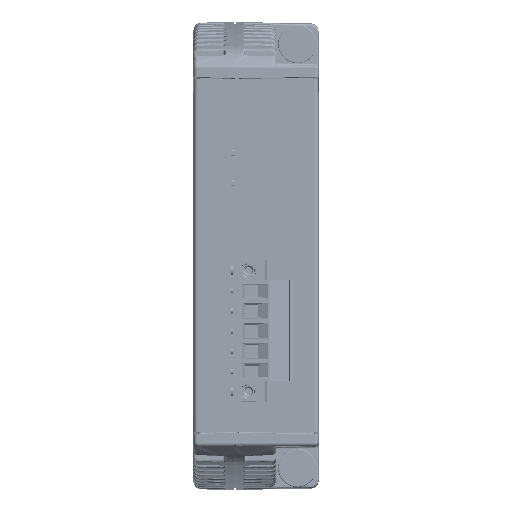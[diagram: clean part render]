
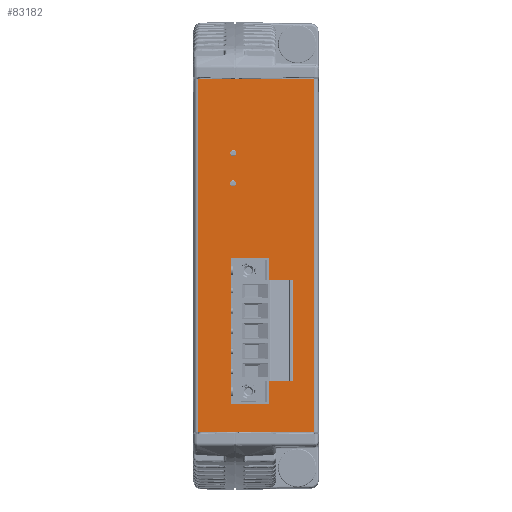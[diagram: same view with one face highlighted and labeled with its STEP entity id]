
A CAD part, top view. The second image highlights one B-rep face of the part: STEP entity #83182.
In plain terms, the highlighted planar face has unit normal (0, 0, 1).
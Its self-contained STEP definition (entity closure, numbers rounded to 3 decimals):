
#1920 = CARTESIAN_POINT ( 'NONE',  ( 10.39, -37.245, 28.4 ) ) ;
#1957 = CARTESIAN_POINT ( 'NONE',  ( 0.535, 18.196, 28.4 ) ) ;
#4042 = CARTESIAN_POINT ( 'NONE',  ( 1.285, 18.196, 28.4 ) ) ;
#5953 = LINE ( 'NONE', #183777, #78269 ) ;
#7946 = AXIS2_PLACEMENT_3D ( 'NONE', #4042, #105117, #18584 ) ;
#8478 = EDGE_CURVE ( 'NONE', #55296, #40858, #11192, .T. ) ;
#9499 = AXIS2_PLACEMENT_3D ( 'NONE', #102774, #16242, #117285 ) ;
#11099 = EDGE_LOOP ( 'NONE', ( #104027, #95495, #21943, #163240 ) ) ;
#11192 = LINE ( 'NONE', #84016, #87953 ) ;
#16242 = DIRECTION ( 'NONE',  ( 0., 0., -1. ) ) ;
#16614 = ORIENTED_EDGE ( 'NONE', *, *, #20457, .F. ) ;
#16762 = LINE ( 'NONE', #34013, #165943 ) ;
#18135 = EDGE_CURVE ( 'NONE', #101337, #88627, #60083, .T. ) ;
#18584 = DIRECTION ( 'NONE',  ( 1., 0., 0. ) ) ;
#20457 = EDGE_CURVE ( 'NONE', #88627, #101337, #181683, .T. ) ;
#21943 = ORIENTED_EDGE ( 'NONE', *, *, #127424, .T. ) ;
#21999 = EDGE_CURVE ( 'NONE', #59995, #45760, #93087, .T. ) ;
#23706 = FACE_BOUND ( 'NONE', #94843, .T. ) ;
#24097 = EDGE_LOOP ( 'NONE', ( #121197, #71827 ) ) ;
#25077 = EDGE_CURVE ( 'NONE', #45760, #59995, #159810, .T. ) ;
#27828 = LINE ( 'NONE', #57112, #100115 ) ;
#33826 = VERTEX_POINT ( 'NONE', #161561 ) ;
#34013 = CARTESIAN_POINT ( 'NONE',  ( 0.79, -0.685, 28.4 ) ) ;
#34168 = CARTESIAN_POINT ( 'NONE',  ( 10.39, -0.685, 28.4 ) ) ;
#35432 = ORIENTED_EDGE ( 'NONE', *, *, #92070, .F. ) ;
#36720 = VERTEX_POINT ( 'NONE', #172351 ) ;
#38298 = DIRECTION ( 'NONE',  ( 0., 0., 1. ) ) ;
#40858 = VERTEX_POINT ( 'NONE', #34168 ) ;
#42858 = EDGE_CURVE ( 'NONE', #112468, #36720, #106231, .T. ) ;
#45760 = VERTEX_POINT ( 'NONE', #101874 ) ;
#55296 = VERTEX_POINT ( 'NONE', #1920 ) ;
#56652 = VERTEX_POINT ( 'NONE', #135365 ) ;
#57112 = CARTESIAN_POINT ( 'NONE',  ( -8.702, -44.498, 28.4 ) ) ;
#57249 = CARTESIAN_POINT ( 'NONE',  ( -7.672, 44.498, 28.4 ) ) ;
#59154 = PLANE ( 'NONE',  #9499 ) ;
#59995 = VERTEX_POINT ( 'NONE', #139665 ) ;
#60064 = DIRECTION ( 'NONE',  ( 0., 1., 0. ) ) ;
#60083 = CIRCLE ( 'NONE', #169812, 0.75 ) ;
#61997 = ORIENTED_EDGE ( 'NONE', *, *, #143981, .F. ) ;
#62078 = FACE_BOUND ( 'NONE', #24097, .T. ) ;
#64149 = CARTESIAN_POINT ( 'NONE',  ( -7.672, -44.998, 28.4 ) ) ;
#65828 = CARTESIAN_POINT ( 'NONE',  ( 1.285, 18.196, 28.4 ) ) ;
#69119 = VECTOR ( 'NONE', #184237, 1000. ) ;
#70190 = DIRECTION ( 'NONE',  ( 0., 1., 0. ) ) ;
#70505 = AXIS2_PLACEMENT_3D ( 'NONE', #124861, #38298, #139279 ) ;
#71674 = DIRECTION ( 'NONE',  ( 1., 0., 0. ) ) ;
#71827 = ORIENTED_EDGE ( 'NONE', *, *, #25077, .F. ) ;
#74837 = VERTEX_POINT ( 'NONE', #128652 ) ;
#76729 = DIRECTION ( 'NONE',  ( 0., 0., 1. ) ) ;
#78269 = VECTOR ( 'NONE', #111710, 1000. ) ;
#79013 = ORIENTED_EDGE ( 'NONE', *, *, #133547, .F. ) ;
#80313 = DIRECTION ( 'NONE',  ( 1., 0., 0. ) ) ;
#83182 = ADVANCED_FACE ( 'NONE', ( #62078, #23706, #134367, #95958 ), #59154, .F. ) ;
#84016 = CARTESIAN_POINT ( 'NONE',  ( 10.39, -0.685, 28.4 ) ) ;
#87953 = VECTOR ( 'NONE', #70190, 1000. ) ;
#88627 = VERTEX_POINT ( 'NONE', #1957 ) ;
#92070 = EDGE_CURVE ( 'NONE', #40858, #113341, #5953, .T. ) ;
#93087 = CIRCLE ( 'NONE', #141211, 0.75 ) ;
#94843 = EDGE_LOOP ( 'NONE', ( #114947, #16614 ) ) ;
#95495 = ORIENTED_EDGE ( 'NONE', *, *, #42858, .T. ) ;
#95958 = FACE_OUTER_BOUND ( 'NONE', #11099, .T. ) ;
#100115 = VECTOR ( 'NONE', #71674, 1000. ) ;
#101337 = VERTEX_POINT ( 'NONE', #162896 ) ;
#101661 = VECTOR ( 'NONE', #179806, 1000. ) ;
#101874 = CARTESIAN_POINT ( 'NONE',  ( 0.535, 25.816, 28.4 ) ) ;
#102774 = CARTESIAN_POINT ( 'NONE',  ( -8.702, 44.998, 28.4 ) ) ;
#104027 = ORIENTED_EDGE ( 'NONE', *, *, #110800, .F. ) ;
#105117 = DIRECTION ( 'NONE',  ( 0., 0., 1. ) ) ;
#106231 = LINE ( 'NONE', #64149, #101661 ) ;
#108644 = LINE ( 'NONE', #161167, #185491 ) ;
#110800 = EDGE_CURVE ( 'NONE', #112468, #56652, #124641, .T. ) ;
#111710 = DIRECTION ( 'NONE',  ( -1., 0., 0. ) ) ;
#112166 = CARTESIAN_POINT ( 'NONE',  ( 0.79, -37.245, 28.4 ) ) ;
#112468 = VERTEX_POINT ( 'NONE', #57249 ) ;
#113341 = VERTEX_POINT ( 'NONE', #154160 ) ;
#114947 = ORIENTED_EDGE ( 'NONE', *, *, #18135, .F. ) ;
#115462 = VECTOR ( 'NONE', #136451, 1000. ) ;
#117285 = DIRECTION ( 'NONE',  ( 0., 1., 0. ) ) ;
#121197 = ORIENTED_EDGE ( 'NONE', *, *, #21999, .F. ) ;
#124641 = LINE ( 'NONE', #179530, #115462 ) ;
#124771 = ORIENTED_EDGE ( 'NONE', *, *, #8478, .F. ) ;
#124861 = CARTESIAN_POINT ( 'NONE',  ( 1.285, 25.816, 28.4 ) ) ;
#127424 = EDGE_CURVE ( 'NONE', #36720, #74837, #27828, .T. ) ;
#128652 = CARTESIAN_POINT ( 'NONE',  ( 21.772, -44.498, 28.4 ) ) ;
#129995 = EDGE_CURVE ( 'NONE', #74837, #56652, #108644, .T. ) ;
#133547 = EDGE_CURVE ( 'NONE', #33826, #55296, #150460, .T. ) ;
#134367 = FACE_BOUND ( 'NONE', #135751, .T. ) ;
#135008 = DIRECTION ( 'NONE',  ( 0., -1., 0. ) ) ;
#135365 = CARTESIAN_POINT ( 'NONE',  ( 21.772, 44.498, 28.4 ) ) ;
#135751 = EDGE_LOOP ( 'NONE', ( #61997, #35432, #124771, #79013 ) ) ;
#136451 = DIRECTION ( 'NONE',  ( 1., 0., 0. ) ) ;
#139279 = DIRECTION ( 'NONE',  ( 1., 0., 0. ) ) ;
#139665 = CARTESIAN_POINT ( 'NONE',  ( 2.035, 25.816, 28.4 ) ) ;
#141211 = AXIS2_PLACEMENT_3D ( 'NONE', #163225, #76729, #177869 ) ;
#143981 = EDGE_CURVE ( 'NONE', #113341, #33826, #16762, .T. ) ;
#150460 = LINE ( 'NONE', #112166, #69119 ) ;
#154160 = CARTESIAN_POINT ( 'NONE',  ( 0.79, -0.685, 28.4 ) ) ;
#159810 = CIRCLE ( 'NONE', #70505, 0.75 ) ;
#161167 = CARTESIAN_POINT ( 'NONE',  ( 21.772, 44.998, 28.4 ) ) ;
#161561 = CARTESIAN_POINT ( 'NONE',  ( 0.79, -37.245, 28.4 ) ) ;
#162896 = CARTESIAN_POINT ( 'NONE',  ( 2.035, 18.196, 28.4 ) ) ;
#163225 = CARTESIAN_POINT ( 'NONE',  ( 1.285, 25.816, 28.4 ) ) ;
#163240 = ORIENTED_EDGE ( 'NONE', *, *, #129995, .T. ) ;
#165943 = VECTOR ( 'NONE', #135008, 1000. ) ;
#166889 = DIRECTION ( 'NONE',  ( 0., 0., 1. ) ) ;
#169812 = AXIS2_PLACEMENT_3D ( 'NONE', #65828, #166889, #80313 ) ;
#172351 = CARTESIAN_POINT ( 'NONE',  ( -7.672, -44.498, 28.4 ) ) ;
#177869 = DIRECTION ( 'NONE',  ( 1., 0., 0. ) ) ;
#179530 = CARTESIAN_POINT ( 'NONE',  ( -8.702, 44.498, 28.4 ) ) ;
#179806 = DIRECTION ( 'NONE',  ( 0., -1., 0. ) ) ;
#181683 = CIRCLE ( 'NONE', #7946, 0.75 ) ;
#183777 = CARTESIAN_POINT ( 'NONE',  ( 0.79, -0.685, 28.4 ) ) ;
#184237 = DIRECTION ( 'NONE',  ( 1., 0., 0. ) ) ;
#185491 = VECTOR ( 'NONE', #60064, 1000. ) ;
